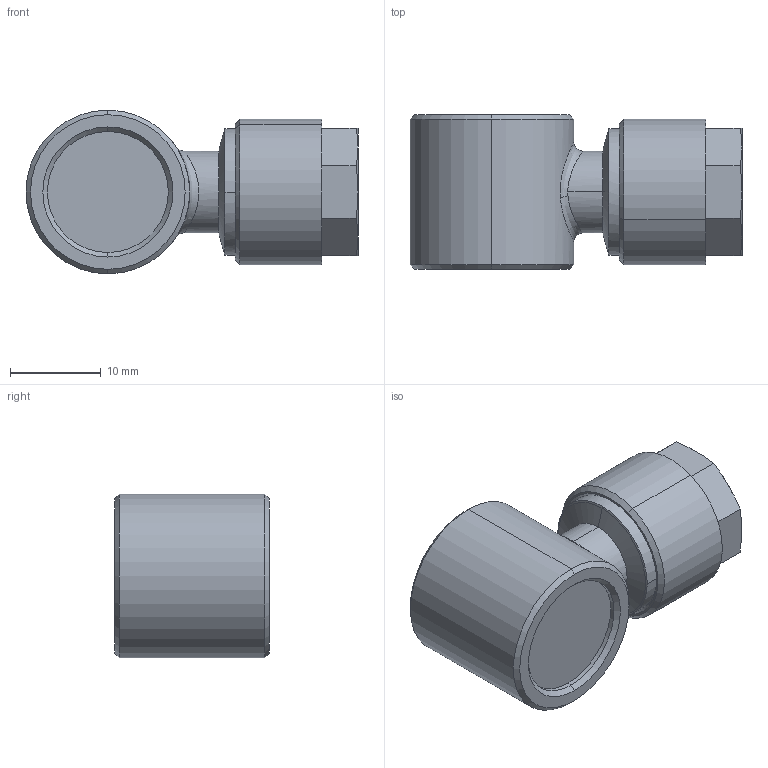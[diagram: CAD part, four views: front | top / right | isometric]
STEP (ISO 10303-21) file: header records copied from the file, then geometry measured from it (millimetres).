
FILE_DESCRIPTION (( 'STEP AP214' ), '1' );
FILE_NAME ('0150000016.step', '2012-09-28T13:27:05', ( '' ), ( '' ), 'SwSTEP 2.0', 'SolidWorks 2012', '' );
FILE_SCHEMA (( 'AUTOMOTIVE_DESIGN' ));
Length unit declared in the file: millimetre
Products named in the file (1): 0150000016
Bounding box: 36.5 x 17 x 18 mm (x, y, z)
Volume: 6905.9 mm3; surface area: 2629.4 mm2
Topology: 1 solids, 1 shells, 59 faces, 128 edges, 77 vertices
Faces by surface type: cone 23, plane 16, cylinder 14, torus 4, bspline 2
Entity records: 2681 total; most frequent: CARTESIAN_POINT 712, DIRECTION 283, ORIENTED_EDGE 256, EDGE_CURVE 128, AXIS2_PLACEMENT_3D 119, VERTEX_POINT 77, EDGE_LOOP 65, UNCERTAINTY_MEASURE_WITH_UNIT 62
